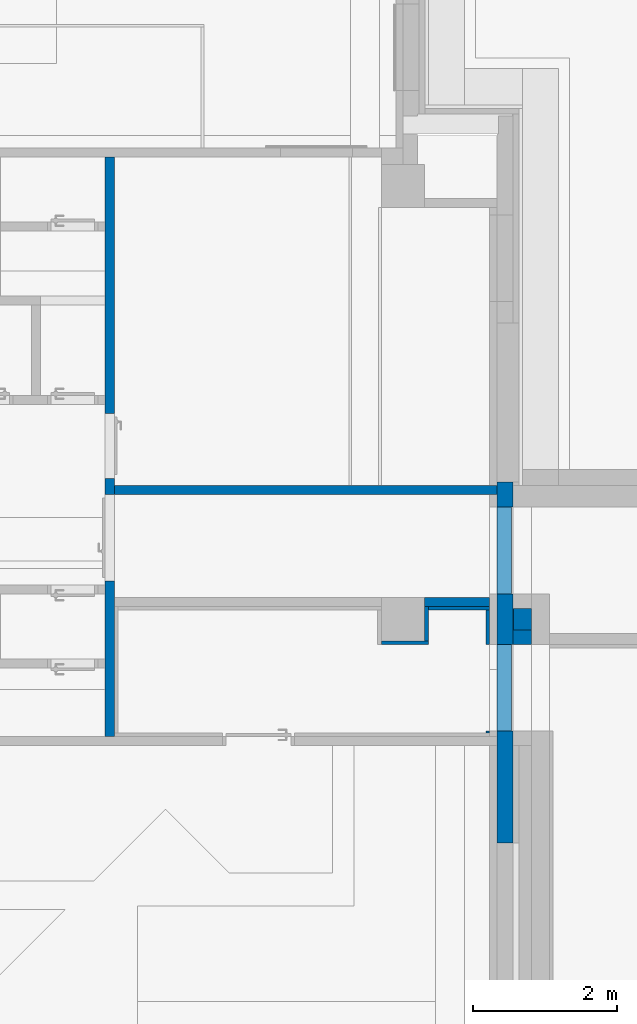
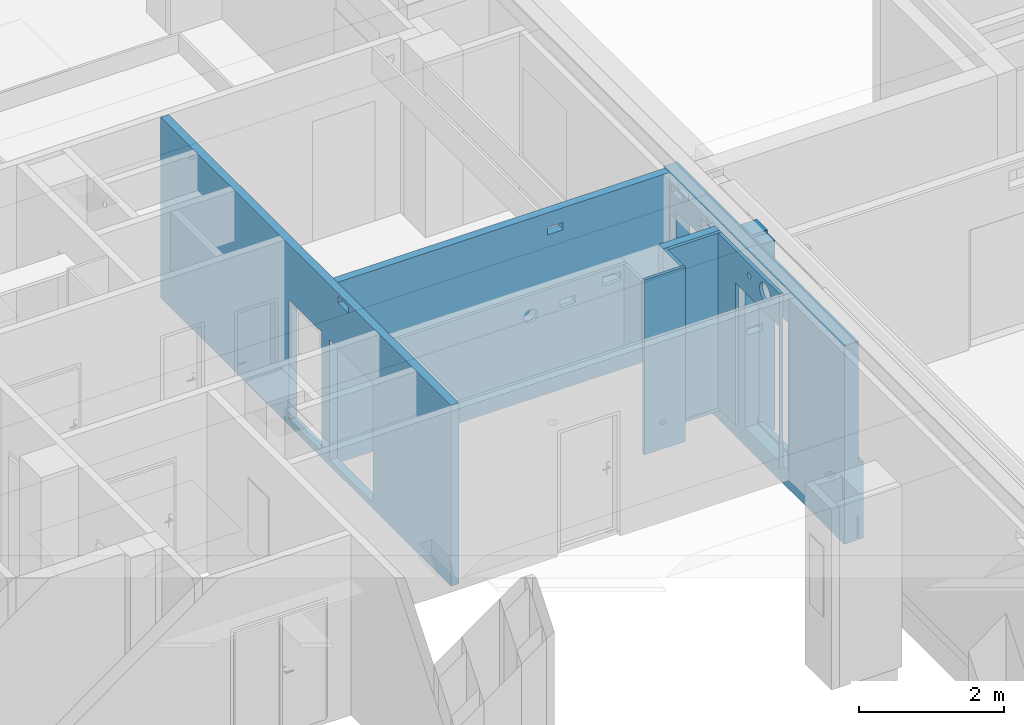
# One storey, part 35 of 84: 10 walls, 13 openings.
"""IFC4 building model written with IfcOpenShell, lengths in metres."""

from ifc_helpers import new_model, entity, si_unit, converted_unit, derived_unit, frame, frame_2d, origin, origin_with_axes, place, context, subcontext, project, spatial, polyline, rectangle, outline, extrude, clip, bounded_halfspace, material, layer, layer_set, layer_usage, element, save


model = new_model("IFC4")

# Units and contexts
model_context = context("Model", 3, precision=1e-05, world=origin())
body_context = subcontext(model_context, "Body", "Model", "MODEL_VIEW")
ifc_project = project(units=[si_unit("LENGTHUNIT", "METRE"), si_unit("AREAUNIT", "SQUARE_METRE"), si_unit("VOLUMEUNIT", "CUBIC_METRE"), si_unit("MASSUNIT", "GRAM", prefix="KILO"), converted_unit("PLANEANGLEUNIT", "DEGREE", entity("IfcPlaneAngleMeasure", 0.0174532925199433), si_unit("PLANEANGLEUNIT", "RADIAN"), dimensions=[0, 0, 0, 0, 0, 0, 0]), derived_unit("THERMALTRANSMITTANCEUNIT", [(si_unit("POWERUNIT", "WATT"), 1), (si_unit("THERMODYNAMICTEMPERATUREUNIT", "KELVIN"), -1), (si_unit("LENGTHUNIT", "METRE"), -2)]), derived_unit("VOLUMETRICFLOWRATEUNIT", [(si_unit("LENGTHUNIT", "METRE"), 3), (converted_unit("TIMEUNIT", "hour", entity("IfcTimeMeasure", 3600.0), si_unit("TIMEUNIT", "SECOND"), dimensions=[0, 0, 1, 0, 0, 0, 0]), -1), (si_unit("LENGTHUNIT", "METRE"), -1)])], contexts=[model_context])

# Site, building, storey
site_placement = place(None, origin())
site = spatial("IfcSite", under=ifc_project, at=site_placement, Name="3. ASŘ", CompositionType="ELEMENT")
building_placement = place(site_placement, origin())
building = spatial("IfcBuilding", under=site, at=building_placement, Name="Pavilon C", CompositionType="ELEMENT")
storey_placement = place(building_placement, frame((0.0, 0.0, -3.3)))
storey = spatial("IfcBuildingStorey", under=building, at=storey_placement, Name="Půdorys 1.PP", CompositionType="ELEMENT", Elevation=-3.3)

# Wall, opening
ifc_material_1 = material(Name="ZDIVO Z CDm")
ifc_layer_1 = layer(ifc_material_1, 0.125)
ifc_layer_set_1 = layer_set([ifc_layer_1])
ifc_layer_usage_1 = layer_usage(ifc_layer_set_1, "AXIS2", "POSITIVE", 0.0)
wall_1_placement = place(storey_placement, frame((51.25, 15.05, -0.1), z_axis=(0.0, 0.0, 1.0), x_axis=(-1.0, 0.0, 0.0)))
wall_1 = element("IfcWall", 1, at=wall_1_placement, inside=storey, material=ifc_layer_usage_1, Name="ZDIVO Z CDm", context=body_context, shape_type="SweptSolid", body=[
    extrude(rectangle(XDim=5.3, YDim=0.125, at=frame_2d((2.65, 0.0625), x_axis=(1.0, 0.0))), origin_with_axes(), (0.0, 0.0, 1.0), 3.05),
])
opening_1_placement = place(wall_1_placement, frame((1.7, 0.0, 2.68), z_axis=(0.0, 1.0, 0.0), x_axis=(0.0, 0.0, 1.0)))
element("IfcOpeningElement", 2, at=opening_1_placement, cuts=wall_1, Name="UT", ObjectType="Opening", context=body_context, shape_type="SweptSolid", body=[
    extrude(outline(polyline([(0.0, 0.25), (0.12, 0.25), (0.12, 0.0), (0.0, 0.0), (0.0, 0.25)])), origin_with_axes(), (0.0, 0.0, 1.0), 0.125),
])

# Wall, openings
ifc_material_2 = material(Name="ZDIVO Z CDm")
ifc_layer_2 = layer(ifc_material_2, 0.125)
ifc_layer_set_2 = layer_set([ifc_layer_2])
ifc_layer_usage_2 = layer_usage(ifc_layer_set_2, "AXIS2", "POSITIVE", 0.0)
wall_2_placement = place(storey_placement, frame((45.95, 11.575, -0.1), z_axis=(0.0, 0.0, 1.0), x_axis=(0.0, 1.0, 0.0)))
wall_2 = element("IfcWall", 3, at=wall_2_placement, inside=storey, material=ifc_layer_usage_2, Name="ZDIVO Z CDm", context=body_context, shape_type="SweptSolid", body=[
    extrude(rectangle(XDim=8.025, YDim=0.125, at=frame_2d((4.0125, 0.0625), x_axis=(1.0, 0.0))), origin_with_axes(), (0.0, 0.0, 1.0), 3.05),
])
opening_2_placement = place(wall_2_placement, frame((2.825, 0.0, 2.89), z_axis=(0.0, 1.0, 0.0), x_axis=(0.0, 0.0, 1.0)))
element("IfcOpeningElement", 4, at=opening_2_placement, cuts=wall_2, Name="ZTI", ObjectType="Opening", context=body_context, shape_type="SweptSolid", body=[
    extrude(outline(polyline([(0.0, 0.3), (0.11, 0.3), (0.11, 0.0), (0.0, 0.0), (0.0, 0.3)])), origin_with_axes(), (0.0, 0.0, 1.0), 0.125),
])
opening_3_placement = place(wall_2_placement, frame((3.57499999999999, 0.0, 0.1), z_axis=(0.0, 1.0, 0.0), x_axis=(0.0, 0.0, 1.0)))
element("IfcOpeningElement", 5, at=opening_3_placement, cuts=wall_2, Name="Dveřní otvor", ObjectType="Opening", context=body_context, shape_type="SweptSolid", body=[
    extrude(outline(polyline([(0.0, 0.9), (2.02, 0.9), (2.02, 0.0), (0.0, 0.0), (0.0, 0.9)])), origin_with_axes(), (0.0, 0.0, 1.0), 0.125),
])
opening_4_placement = place(wall_2_placement, frame((2.15, 0.0, 0.1), z_axis=(0.0, 1.0, 0.0), x_axis=(0.0, 0.0, 1.0)))
element("IfcOpeningElement", 6, at=opening_4_placement, cuts=wall_2, Name="Dveřní otvor", ObjectType="Opening", context=body_context, shape_type="SweptSolid", body=[
    extrude(outline(polyline([(0.0, 1.2), (2.02, 1.2), (2.02, 0.0), (0.0, 0.0), (0.0, 1.2)])), origin_with_axes(), (0.0, 0.0, 1.0), 0.125),
])

ifc_material_3 = material(Name="ZELEZOBETONOVÁ KCE")
ifc_layer_3 = layer(ifc_material_3, 0.2)
ifc_material_4 = material(Name="LIGNOPOR")
ifc_layer_4 = layer(ifc_material_4, 0.025)
ifc_material_5 = material(Name="PÓROBETONOVÉ ZDIVO")
ifc_layer_5 = layer(ifc_material_5, 0.08)
ifc_layer_set_3 = layer_set([ifc_layer_3, ifc_layer_4, ifc_layer_5])
ifc_layer_usage_3 = layer_usage(ifc_layer_set_3, "AXIS2", "POSITIVE", 0.0)
wall_3_placement = place(storey_placement, frame((51.25, 15.1, -0.4), z_axis=(0.0, 0.0, 1.0), x_axis=(0.0, -1.0, 0.0)))
wall_3 = element("IfcWall", 7, at=wall_3_placement, inside=storey, material=ifc_layer_usage_3, Name="ZELEZOBETONOVÁ KCE", context=body_context, shape_type="Clipping", body=[
    clip(clip(clip(clip(clip(clip(clip(clip(extrude(rectangle(XDim=4.99999999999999, YDim=0.305, at=frame_2d((2.5, 0.1525), x_axis=(1.0, 0.0))), origin_with_axes(), (0.0, 0.0, 1.0), 3.35), bounded_halfspace(frame((2.12999999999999, 0.22, 0.4), z_axis=(0.0, 0.0, 1.0), x_axis=(-1.0, 0.0, 0.0)), True, origin_with_axes(), polyline([(3.65, 0.225000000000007), (3.45, 0.225000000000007), (2.25, 0.225000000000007), (1.54999999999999, 0.225000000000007), (0.349999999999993, 0.225000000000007), (0.0499999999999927, 0.225000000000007), (0.0, 0.225000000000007), (0.0, 0.2), (4.99999999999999, 0.2), (4.99999999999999, 0.225000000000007), (3.65, 0.225000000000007)]))), bounded_halfspace(frame((3.55, 0.265000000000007, 0.3), z_axis=(0.0, 0.0, -1.0), x_axis=(-1.0, 0.0, 0.0)), True, origin_with_axes(), polyline([(3.65, 0.305000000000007), (3.45, 0.305000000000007), (3.45, 0.225000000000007), (3.65, 0.225000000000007), (3.65, 0.305000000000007)]))), bounded_halfspace(frame((1.9, 0.265000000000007, 0.3), z_axis=(0.0, 0.0, -1.0), x_axis=(0.0, -1.0, 0.0)), True, origin_with_axes(), polyline([(1.54999999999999, 0.305000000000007), (1.54999999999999, 0.225000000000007), (2.25, 0.225000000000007), (2.25, 0.305000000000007), (1.54999999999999, 0.305000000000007)]))), bounded_halfspace(frame((0.199999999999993, 0.265000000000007, 0.3), z_axis=(0.0, 0.0, -1.0), x_axis=(1.0, 0.0, 0.0)), True, origin_with_axes(), polyline([(0.0499999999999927, 0.225000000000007), (0.349999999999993, 0.225000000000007), (0.349999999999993, 0.305000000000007), (0.0499999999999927, 0.305000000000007), (0.0499999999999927, 0.225000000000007)]))), bounded_halfspace(frame((4.325, 0.265000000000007, 1.3), z_axis=(-1.68424944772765e-16, 2.8421709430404e-15, -1.0), x_axis=(0.0, -1.0, 0.0)), True, origin_with_axes(), polyline([(3.65, 0.305000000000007), (3.65, 0.225000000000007), (4.99999999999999, 0.225000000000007), (4.99999999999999, 0.305000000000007), (3.65, 0.305000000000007)]))), bounded_halfspace(frame((2.85, 0.265000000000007, 1.3), z_axis=(0.0, 0.0, -1.0), x_axis=(0.0, 1.0, 0.0)), True, origin_with_axes(), polyline([(3.45, 0.225000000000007), (3.45, 0.305000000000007), (2.25, 0.305000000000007), (2.25, 0.225000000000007), (3.45, 0.225000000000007)]))), bounded_halfspace(frame((0.0249999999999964, 0.265000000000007, 1.3), z_axis=(0.0, 0.0, -1.0), x_axis=(0.0, 1.0, 0.0)), True, origin_with_axes(), polyline([(0.0499999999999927, 0.225000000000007), (0.0499999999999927, 0.305000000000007), (0.0, 0.305000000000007), (0.0, 0.225000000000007), (0.0499999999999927, 0.225000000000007)]))), bounded_halfspace(frame((0.949999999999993, 0.265000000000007, 1.3), z_axis=(0.0, 0.0, -1.0), x_axis=(0.0, 1.0, 0.0)), True, origin_with_axes(), polyline([(1.54999999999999, 0.225000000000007), (1.54999999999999, 0.305000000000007), (0.349999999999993, 0.305000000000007), (0.349999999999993, 0.225000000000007), (1.54999999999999, 0.225000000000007)]))),
])
opening_5_placement = place(wall_3_placement, frame((3.45, 0.2, 0.3), z_axis=(0.0, -1.0, 0.0), x_axis=(0.0, 0.0, 1.0)))
element("IfcOpeningElement", 8, at=opening_5_placement, cuts=wall_3, Name="Dveřní otvor", ObjectType="Opening", context=body_context, shape_type="SweptSolid", body=[
    extrude(outline(polyline([(0.0, 1.2), (2.5, 1.2), (2.5, 0.0), (0.0, 0.0), (0.0, 1.2)])), origin_with_axes(), (0.0, 0.0, 1.0), 0.2),
    extrude(outline(polyline([(0.0, 1.2), (2.5, 1.2), (2.5, 0.0), (0.0, 0.0), (0.0, 1.2)])), frame((0.0, 0.0, -0.025), z_axis=(0.0, 0.0, 1.0), x_axis=(1.0, 0.0, 0.0)), (0.0, 0.0, 1.0), 0.025),
    extrude(outline(polyline([(0.0, 1.2), (2.5, 1.2), (2.5, 0.0), (0.0, 0.0), (0.0, 1.2)])), frame((0.0, 0.0, -0.105), z_axis=(0.0, 0.0, 1.0), x_axis=(1.0, 0.0, 0.0)), (0.0, 0.0, 1.0), 0.08),
])
opening_6_placement = place(wall_3_placement, frame((2.91615451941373, 0.0, 2.98), z_axis=(0.0, 1.0, 0.0), x_axis=(0.0, 0.0, 1.0)))
element("IfcOpeningElement", 9, at=opening_6_placement, cuts=wall_3, Name="Prostup stěnou", ObjectType="Opening", context=body_context, shape_type="SweptSolid", body=[
    extrude(outline(polyline([(0.149999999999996, 0.0), (0.134320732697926, 0.000821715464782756), (0.118813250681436, 0.00327785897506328), (0.103647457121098, 0.00734152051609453), (0.0889895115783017, 0.0129681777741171), (0.0750000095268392, 0.0200961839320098), (0.0618322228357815, 0.0286474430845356), (0.0496304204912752, 0.0385282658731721), (0.0385282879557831, 0.0496303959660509), (0.0286474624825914, 0.0618321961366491), (0.0200962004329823, 0.0749999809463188), (0.0129681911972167, 0.0889894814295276), (0.00734153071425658, 0.103647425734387), (0.00327786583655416, 0.118813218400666), (0.00082171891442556, 0.134320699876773), (0.0, 0.149999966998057), (0.000821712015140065, 0.165679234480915), (0.00327785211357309, 0.181186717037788), (0.00734151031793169, 0.196352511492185), (0.0129681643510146, 0.211010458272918), (0.0200961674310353, 0.224999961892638), (0.0286474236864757, 0.238167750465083), (0.0385282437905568, 0.250369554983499), (0.0496303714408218, 0.261471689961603), (0.0618321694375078, 0.271352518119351), (0.0749999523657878, 0.279903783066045), (0.0889894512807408, 0.287031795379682), (0.10364739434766, 0.292658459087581), (0.11881318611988, 0.296722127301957), (0.134320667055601, 0.299178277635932), (0.149999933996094, 0.3), (0.165679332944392, 0.299178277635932), (0.181186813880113, 0.296722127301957), (0.196352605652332, 0.292658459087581), (0.211010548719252, 0.287031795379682), (0.225000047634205, 0.279903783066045), (0.238167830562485, 0.271352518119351), (0.250369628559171, 0.261471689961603), (0.261471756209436, 0.250369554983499), (0.271352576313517, 0.238167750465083), (0.279903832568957, 0.224999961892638), (0.287031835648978, 0.211010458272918), (0.292658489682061, 0.196352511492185), (0.29672214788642, 0.181186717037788), (0.299178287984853, 0.165679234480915), (0.299999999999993, 0.149999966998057), (0.299178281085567, 0.134320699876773), (0.296722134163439, 0.118813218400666), (0.292658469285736, 0.103647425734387), (0.287031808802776, 0.0889894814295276), (0.27990379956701, 0.0749999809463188), (0.271352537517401, 0.0618321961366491), (0.26147171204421, 0.0496303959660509), (0.250369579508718, 0.0385282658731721), (0.238167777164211, 0.0286474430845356), (0.224999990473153, 0.0200961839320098), (0.211010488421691, 0.0129681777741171), (0.196352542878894, 0.00734152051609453), (0.181186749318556, 0.00327785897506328), (0.165679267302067, 0.000821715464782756), (0.149999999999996, 0.0)])), origin_with_axes(), (0.0, 0.0, 1.0), 0.2),
    extrude(outline(polyline([(0.149999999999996, 0.0), (0.134320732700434, 0.000821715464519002), (0.118813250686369, 0.00327785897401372), (0.103647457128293, 0.00734152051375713), (0.0889895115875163, 0.0129681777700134), (0.0750000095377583, 0.0200961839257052), (0.0618322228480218, 0.0286474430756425), (0.0496304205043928, 0.0385282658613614), (0.0385282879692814, 0.0496303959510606), (0.0286474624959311, 0.0618321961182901), (0.0200962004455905, 0.0749999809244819), (0.0129681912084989, 0.0889894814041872), (0.00734153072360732, 0.103647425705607), (0.0032778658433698, 0.118813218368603), (0.000821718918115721, 0.134320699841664), (0.0, 0.149999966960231), (0.000821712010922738, 0.16567923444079), (0.00327785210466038, 0.181186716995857), (0.00734151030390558, 0.196352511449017), (0.0129681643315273, 0.211010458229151), (0.020096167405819, 0.22499996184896), (0.0286474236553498, 0.238167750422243), (0.0385282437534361, 0.250369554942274), (0.0496303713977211, 0.261471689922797), (0.0618321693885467, 0.271352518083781), (0.0749999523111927, 0.279903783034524), (0.0889894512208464, 0.287031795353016), (0.103647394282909, 0.292658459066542), (0.118813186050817, 0.296722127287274), (0.134320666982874, 0.299178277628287), (0.149999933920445, 0.3), (0.165679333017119, 0.299178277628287), (0.181186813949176, 0.296722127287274), (0.196352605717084, 0.292658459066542), (0.211010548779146, 0.287031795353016), (0.2250000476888, 0.279903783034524), (0.238167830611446, 0.271352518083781), (0.250369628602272, 0.261471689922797), (0.261471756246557, 0.250369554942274), (0.271352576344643, 0.238167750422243), (0.279903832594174, 0.22499996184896), (0.287031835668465, 0.211010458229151), (0.292658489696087, 0.196352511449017), (0.296722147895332, 0.181186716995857), (0.29917828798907, 0.16567923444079), (0.299999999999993, 0.149999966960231), (0.299178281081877, 0.134320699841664), (0.296722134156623, 0.118813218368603), (0.292658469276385, 0.103647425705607), (0.287031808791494, 0.0889894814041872), (0.279903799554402, 0.0749999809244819), (0.271352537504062, 0.0618321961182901), (0.261471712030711, 0.0496303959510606), (0.2503695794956, 0.0385282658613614), (0.238167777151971, 0.0286474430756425), (0.224999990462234, 0.0200961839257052), (0.211010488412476, 0.0129681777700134), (0.1963525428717, 0.00734152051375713), (0.181186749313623, 0.00327785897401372), (0.165679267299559, 0.000821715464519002), (0.149999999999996, 0.0)])), frame((0.0, 0.0, 0.2), z_axis=(0.0, 0.0, 1.0), x_axis=(1.0, 0.0, 0.0)), (0.0, 0.0, 1.0), 0.025),
])
opening_7_placement = place(wall_3_placement, frame((2.58086786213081, 0.0, 3.1), z_axis=(0.0, 1.0, 0.0), x_axis=(0.0, 0.0, 1.0)))
element("IfcOpeningElement", 10, at=opening_7_placement, cuts=wall_3, Name="Prostup stěnou", ObjectType="Opening", context=body_context, shape_type="SweptSolid", body=[
    extrude(outline(polyline([(0.0499999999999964, 0.0), (0.0447735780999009, 0.000273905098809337), (0.0396044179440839, 0.00109261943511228), (0.0345491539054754, 0.00244717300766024), (0.0296631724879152, 0.00432272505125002), (0.0250000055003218, 0.00669872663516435), (0.0206107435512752, 0.00954914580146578), (0.0165434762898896, 0.0128427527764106), (0.0128427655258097, 0.0165434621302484), (0.00954915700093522, 0.0206107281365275), (0.00669873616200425, 0.0249999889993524), (0.00432273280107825, 0.0296631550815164), (0.00244717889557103, 0.034549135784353), (0.00109262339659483, 0.039604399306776), (0.000273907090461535, 0.0447735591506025), (0.0, 0.0499999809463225), (0.000273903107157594, 0.0552264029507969), (0.00109261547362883, 0.0603955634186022), (0.00244716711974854, 0.0654508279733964), (0.0043227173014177, 0.0703368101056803), (0.00669871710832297, 0.0749999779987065), (0.00954913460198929, 0.079389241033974), (0.0128427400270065, 0.0834565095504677), (0.0165434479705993, 0.0871572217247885), (0.0206107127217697, 0.0904508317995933), (0.0249999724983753, 0.0933012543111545), (0.0296631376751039, 0.0956772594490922), (0.0345491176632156, 0.0975528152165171), (0.0396043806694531, 0.098907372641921), (0.0447735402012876, 0.0997260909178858), (0.0499999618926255, 0.1), (0.0552264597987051, 0.0997260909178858), (0.0603956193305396, 0.098907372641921), (0.0654508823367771, 0.0975528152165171), (0.0703368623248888, 0.0956772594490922), (0.0750000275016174, 0.0933012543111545), (0.079389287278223, 0.0904508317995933), (0.0834565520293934, 0.0871572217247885), (0.0871572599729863, 0.0834565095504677), (0.0904508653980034, 0.079389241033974), (0.0933012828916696, 0.0749999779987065), (0.095677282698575, 0.0703368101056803), (0.0975528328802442, 0.0654508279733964), (0.0989073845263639, 0.0603955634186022), (0.0997260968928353, 0.0552264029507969), (0.0999999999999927, 0.0499999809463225), (0.0997260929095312, 0.0447735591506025), (0.0989073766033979, 0.039604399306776), (0.0975528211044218, 0.034549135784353), (0.0956772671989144, 0.0296631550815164), (0.0933012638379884, 0.0249999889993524), (0.0904508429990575, 0.0206107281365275), (0.087157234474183, 0.0165434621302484), (0.0834565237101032, 0.0128427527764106), (0.0793892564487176, 0.00954914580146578), (0.0749999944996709, 0.00669872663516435), (0.0703368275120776, 0.00432272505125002), (0.0654508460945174, 0.00244717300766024), (0.0603955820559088, 0.00109261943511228), (0.0552264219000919, 0.000273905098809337), (0.0499999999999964, 0.0)])), origin_with_axes(), (0.0, 0.0, 1.0), 0.2),
    extrude(outline(polyline([(0.0499999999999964, 0.0), (0.0447735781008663, 0.000273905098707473), (0.039604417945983, 0.00109261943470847), (0.0345491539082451, 0.00244717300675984), (0.0296631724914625, 0.00432272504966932), (0.0250000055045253, 0.00669872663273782), (0.0206107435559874, 0.00954914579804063), (0.0165434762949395, 0.0128427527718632), (0.0128427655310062, 0.0165434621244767), (0.00954915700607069, 0.0206107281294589), (0.00669873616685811, 0.0249999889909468), (0.00432273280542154, 0.0296631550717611), (0.00244717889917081, 0.0345491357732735), (0.00109262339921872, 0.0396043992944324), (0.000273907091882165, 0.0447735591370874), (0.0, 0.0499999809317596), (0.000273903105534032, 0.0552264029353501), (0.00109261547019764, 0.0603955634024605), (0.00244716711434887, 0.0654508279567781), (0.00432271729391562, 0.070336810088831), (0.00669871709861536, 0.0749999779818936), (0.0095491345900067, 0.0793892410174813), (0.012842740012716, 0.0834565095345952), (0.0165434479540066, 0.0871572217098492), (0.020610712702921, 0.0904508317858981), (0.0249999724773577, 0.0933012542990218), (0.0296631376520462, 0.0956772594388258), (0.0345491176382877, 0.0975528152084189), (0.0396043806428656, 0.0989073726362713), (0.0447735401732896, 0.0997260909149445), (0.0499999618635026, 0.1), (0.0552264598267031, 0.0997260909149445), (0.0603956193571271, 0.0989073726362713), (0.065450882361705, 0.0975528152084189), (0.0703368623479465, 0.0956772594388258), (0.075000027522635, 0.0933012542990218), (0.0793892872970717, 0.0904508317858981), (0.0834565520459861, 0.0871572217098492), (0.0871572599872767, 0.0834565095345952), (0.090450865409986, 0.0793892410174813), (0.0933012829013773, 0.0749999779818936), (0.095677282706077, 0.070336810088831), (0.0975528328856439, 0.0654508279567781), (0.0989073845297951, 0.0603955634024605), (0.0997260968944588, 0.0552264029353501), (0.0999999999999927, 0.0499999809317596), (0.0997260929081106, 0.0447735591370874), (0.0989073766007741, 0.0396043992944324), (0.0975528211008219, 0.0345491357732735), (0.0956772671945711, 0.0296631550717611), (0.0933012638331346, 0.0249999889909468), (0.090450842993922, 0.0206107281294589), (0.0871572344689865, 0.0165434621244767), (0.0834565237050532, 0.0128427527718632), (0.0793892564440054, 0.00954914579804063), (0.0749999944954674, 0.00669872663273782), (0.0703368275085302, 0.00432272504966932), (0.0654508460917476, 0.00244717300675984), (0.0603955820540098, 0.00109261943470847), (0.0552264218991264, 0.000273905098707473), (0.0499999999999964, 0.0)])), frame((0.0, 0.0, 0.2), z_axis=(0.0, 0.0, 1.0), x_axis=(1.0, 0.0, 0.0)), (0.0, 0.0, 1.0), 0.025),
])
opening_8_placement = place(wall_3_placement, frame((1.2183085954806, 0.0, 3.1), z_axis=(0.0, 1.0, 0.0), x_axis=(0.0, 0.0, 1.0)))
element("IfcOpeningElement", 11, at=opening_8_placement, cuts=wall_3, Name="Prostup stěnou", ObjectType="Opening", context=body_context, shape_type="SweptSolid", body=[
    extrude(outline(polyline([(0.0, 0.3), (0.15, 0.3), (0.15, 0.0), (0.0, 0.0), (0.0, 0.3)])), origin_with_axes(), (0.0, 0.0, 1.0), 0.2),
    extrude(outline(polyline([(0.0, 0.3), (0.15, 0.3), (0.15, 0.0), (0.0, 0.0), (0.0, 0.3)])), frame((0.0, 0.0, 0.2), z_axis=(0.0, 0.0, 1.0), x_axis=(1.0, 0.0, 0.0)), (0.0, 0.0, 1.0), 0.025),
])
opening_9_placement = place(wall_3_placement, frame((0.400000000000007, 0.0, 3.19), z_axis=(0.0, 1.0, 0.0), x_axis=(0.0, 0.0, 1.0)))
element("IfcOpeningElement", 12, at=opening_9_placement, cuts=wall_3, Name="ZTI", ObjectType="Opening", context=body_context, shape_type="SweptSolid", body=[
    extrude(outline(polyline([(0.0, 0.3), (0.11, 0.3), (0.11, 0.0), (0.0, 0.0), (0.0, 0.3)])), origin_with_axes(), (0.0, 0.0, 1.0), 0.2),
    extrude(outline(polyline([(0.0, 0.3), (0.11, 0.3), (0.11, 0.0), (0.0, 0.0), (0.0, 0.3)])), frame((0.0, 0.0, 0.2), z_axis=(0.0, 0.0, 1.0), x_axis=(1.0, 0.0, 0.0)), (0.0, 0.0, 1.0), 0.025),
])
opening_10_placement = place(wall_3_placement, frame((1.54999999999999, 0.2, 0.3), z_axis=(0.0, -1.0, 0.0), x_axis=(0.0, 0.0, 1.0)))
element("IfcOpeningElement", 13, at=opening_10_placement, cuts=wall_3, Name="Dveřní otvor", ObjectType="Opening", context=body_context, shape_type="SweptSolid", body=[
    extrude(outline(polyline([(0.0, 1.2), (2.5, 1.2), (2.5, 0.0), (0.0, 0.0), (0.0, 1.2)])), origin_with_axes(), (0.0, 0.0, 1.0), 0.2),
    extrude(outline(polyline([(0.0, 1.2), (2.5, 1.2), (2.5, 0.0), (0.0, 0.0), (0.0, 1.2)])), frame((0.0, 0.0, -0.025), z_axis=(0.0, 0.0, 1.0), x_axis=(1.0, 0.0, 0.0)), (0.0, 0.0, 1.0), 0.025),
    extrude(outline(polyline([(0.0, 1.2), (2.5, 1.2), (2.5, 0.0), (0.0, 0.0), (0.0, 1.2)])), frame((0.0, 0.0, -0.105), z_axis=(0.0, 0.0, 1.0), x_axis=(1.0, 0.0, 0.0)), (0.0, 0.0, 1.0), 0.08),
])

# Walls
ifc_material_6 = material(Name="AKUSTICKÝ OBKLAD")
ifc_layer_6 = layer(ifc_material_6, 0.05)
ifc_layer_set_4 = layer_set([ifc_layer_6])
ifc_layer_usage_4 = layer_usage(ifc_layer_set_4, "AXIS2", "POSITIVE", 0.0)
wall_4_placement = place(storey_placement, frame((50.3, 12.9, 0.0), z_axis=(0.0, 0.0, 1.0), x_axis=(-1.0, 0.0, 0.0)))
element("IfcWall", 14, at=wall_4_placement, inside=storey, material=ifc_layer_usage_4, Name="AKUSTICKÝ OBKLAD", context=body_context, shape_type="SweptSolid", body=[
    extrude(rectangle(XDim=0.65, YDim=0.05, at=frame_2d((0.325, 0.025), x_axis=(1.0, 0.0))), origin_with_axes(), (0.0, 0.0, 1.0), 2.95),
])
ifc_material_7 = material(Name="AKUSTICKÝ OBKLAD")
ifc_layer_7 = layer(ifc_material_7, 0.05)
ifc_layer_set_5 = layer_set([ifc_layer_7])
ifc_layer_usage_5 = layer_usage(ifc_layer_set_5, "AXIS2", "POSITIVE", 0.0)
wall_5_placement = place(storey_placement, frame((50.25, 13.375, 0.0), z_axis=(0.0, 0.0, 1.0), x_axis=(0.0, -1.0, 0.0)))
element("IfcWall", 15, at=wall_5_placement, inside=storey, material=ifc_layer_usage_5, Name="AKUSTICKÝ OBKLAD", context=body_context, shape_type="SweptSolid", body=[
    extrude(rectangle(XDim=0.475, YDim=0.05, at=frame_2d((0.2375, 0.025), x_axis=(1.0, 0.0))), origin_with_axes(), (0.0, 0.0, 1.0), 2.95),
])
ifc_material_8 = material(Name="AKUSTICKÝ OBKLAD")
ifc_layer_8 = layer(ifc_material_8, 0.05)
ifc_layer_set_6 = layer_set([ifc_layer_8])
ifc_layer_usage_6 = layer_usage(ifc_layer_set_6, "AXIS2", "POSITIVE", 0.0)
wall_6_placement = place(storey_placement, frame((51.15, 13.375, 0.0), z_axis=(0.0, 0.0, 1.0), x_axis=(-1.0, 0.0, 0.0)))
element("IfcWall", 16, at=wall_6_placement, inside=storey, material=ifc_layer_usage_6, Name="AKUSTICKÝ OBKLAD", context=body_context, shape_type="SweptSolid", body=[
    extrude(rectangle(XDim=0.85, YDim=0.05, at=frame_2d((0.425, 0.025), x_axis=(1.0, 0.0))), origin_with_axes(), (0.0, 0.0, 1.0), 2.95),
])

# Wall, openings
ifc_material_9 = material(Name="AKUSTICKÝ OBKLAD")
ifc_layer_9 = layer(ifc_material_9, 0.05)
ifc_layer_set_7 = layer_set([ifc_layer_9])
ifc_layer_usage_7 = layer_usage(ifc_layer_set_7, "AXIS2", "POSITIVE", 0.0)
wall_7_placement = place(storey_placement, frame((51.15, 11.625, 0.0), z_axis=(0.0, 0.0, 1.0), x_axis=(0.0, 1.0, 0.0)))
wall_7 = element("IfcWall", 17, at=wall_7_placement, inside=storey, material=ifc_layer_usage_7, Name="AKUSTICKÝ OBKLAD", context=body_context, shape_type="SweptSolid", body=[
    extrude(rectangle(XDim=1.7, YDim=0.05, at=frame_2d((0.85, 0.025), x_axis=(1.0, 0.0))), origin_with_axes(), (0.0, 0.0, 1.0), 2.95),
])
opening_11_placement = place(wall_7_placement, frame((0.025, 0.0, 0.0), z_axis=(0.0, 1.0, 0.0), x_axis=(0.0, 0.0, 1.0)))
element("IfcOpeningElement", 18, at=opening_11_placement, cuts=wall_7, Name="Dveřní otvor", ObjectType="Opening", context=body_context, shape_type="SweptSolid", body=[
    extrude(outline(polyline([(0.0, 1.2), (2.4, 1.2), (2.4, 0.0), (0.0, 0.0), (0.0, 1.2)])), origin_with_axes(), (0.0, 0.0, 1.0), 0.05),
])
opening_12_placement = place(wall_7_placement, frame((0.89413213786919, 0.05, 2.7), z_axis=(0.0, -1.0, 0.0), x_axis=(0.0, 0.0, 1.0)))
element("IfcOpeningElement", 19, at=opening_12_placement, cuts=wall_7, Name="Prostup stěnou", ObjectType="Opening", context=body_context, shape_type="SweptSolid", body=[
    extrude(outline(polyline([(0.0499999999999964, 0.0), (0.0447735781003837, 0.000273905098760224), (0.0396044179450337, 0.00109261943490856), (0.0345491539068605, 0.00244717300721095), (0.0296631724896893, 0.00432272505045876), (0.025000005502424, 0.0066987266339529), (0.0206107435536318, 0.0095491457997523), (0.0165434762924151, 0.0128427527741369), (0.0128427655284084, 0.0165434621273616), (0.00954915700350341, 0.0206107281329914), (0.00669873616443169, 0.0249999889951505), (0.00432273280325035, 0.0296631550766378), (0.00244717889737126, 0.0345491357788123), (0.001092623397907, 0.0396043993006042), (0.000273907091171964, 0.0447735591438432), (0.0, 0.0499999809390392), (0.000273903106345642, 0.0552264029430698), (0.00109261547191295, 0.0603955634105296), (0.00244716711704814, 0.0654508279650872), (0.00432271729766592, 0.0703368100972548), (0.0066987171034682, 0.0749999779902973), (0.00954913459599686, 0.0793892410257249), (0.0128427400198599, 0.0834565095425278), (0.0165434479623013, 0.0871572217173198), (0.0206107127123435, 0.0904508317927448), (0.0249999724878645, 0.0933012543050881), (0.0296631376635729, 0.0956772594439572), (0.0345491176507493, 0.097552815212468), (0.0396043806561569, 0.0989073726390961), (0.0447735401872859, 0.0997260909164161), (0.0499999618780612, 0.1), (0.0552264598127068, 0.0997260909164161), (0.0603956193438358, 0.0989073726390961), (0.0654508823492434, 0.097552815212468), (0.0703368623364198, 0.0956772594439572), (0.0750000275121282, 0.0933012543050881), (0.0793892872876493, 0.0904508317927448), (0.0834565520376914, 0.0871572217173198), (0.0871572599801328, 0.0834565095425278), (0.0904508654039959, 0.0793892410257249), (0.0933012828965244, 0.0749999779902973), (0.0956772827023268, 0.0703368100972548), (0.0975528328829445, 0.0654508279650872), (0.0989073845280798, 0.0603955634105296), (0.0997260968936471, 0.0552264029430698), (0.0999999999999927, 0.0499999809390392), (0.0997260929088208, 0.0447735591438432), (0.0989073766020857, 0.0396043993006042), (0.0975528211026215, 0.0345491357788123), (0.0956772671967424, 0.0296631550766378), (0.093301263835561, 0.0249999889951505), (0.0904508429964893, 0.0206107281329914), (0.0871572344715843, 0.0165434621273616), (0.0834565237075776, 0.0128427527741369), (0.079389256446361, 0.0095491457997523), (0.0749999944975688, 0.0066987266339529), (0.0703368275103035, 0.00432272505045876), (0.0654508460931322, 0.00244717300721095), (0.0603955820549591, 0.00109261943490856), (0.055226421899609, 0.000273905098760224), (0.0499999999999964, 0.0)])), origin_with_axes(), (0.0, 0.0, 1.0), 0.05),
])
opening_13_placement = place(wall_7_placement, frame((0.558845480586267, 0.05, 2.58), z_axis=(0.0, -1.0, 0.0), x_axis=(0.0, 0.0, 1.0)))
element("IfcOpeningElement", 20, at=opening_13_placement, cuts=wall_7, Name="Prostup stěnou", ObjectType="Opening", context=body_context, shape_type="SweptSolid", body=[
    extrude(outline(polyline([(0.149999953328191, 0.0), (0.134320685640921, 0.000821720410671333), (0.118813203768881, 0.00327786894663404), (0.103647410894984, 0.00734153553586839), (0.0889894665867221, 0.0129681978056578), (0.0749999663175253, 0.0200962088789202), (0.0618321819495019, 0.028647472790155), (0.0496303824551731, 0.0385283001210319), (0.0385282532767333, 0.049630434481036), (0.0286474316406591, 0.0618322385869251), (0.0200961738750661, 0.0750000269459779), (0.0129681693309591, 0.088989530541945), (0.00734151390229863, 0.103647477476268), (0.00327785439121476, 0.118813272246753), (0.00082171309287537, 0.13432075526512), (0.0, 0.150000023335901), (0.000821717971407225, 0.165679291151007), (0.00327786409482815, 0.181186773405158), (0.00734152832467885, 0.19635256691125), (0.0129681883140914, 0.211010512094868), (0.0200961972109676, 0.225000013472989), (0.0286474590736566, 0.238167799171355), (0.0385282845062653, 0.25036960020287), (0.0496304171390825, 0.261471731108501), (0.0618322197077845, 0.271352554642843), (0.0750000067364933, 0.279903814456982), (0.0889895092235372, 0.287031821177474), (0.103647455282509, 0.292658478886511), (0.118813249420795, 0.296722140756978), (0.134320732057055, 0.299178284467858), (0.149999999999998, 0.3), (0.165679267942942, 0.299178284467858), (0.181186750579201, 0.296722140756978), (0.196352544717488, 0.292658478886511), (0.211010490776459, 0.287031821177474), (0.224999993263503, 0.279903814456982), (0.238167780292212, 0.271352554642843), (0.250369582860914, 0.261471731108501), (0.261471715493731, 0.25036960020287), (0.27135254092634, 0.238167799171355), (0.279903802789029, 0.225000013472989), (0.287031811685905, 0.211010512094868), (0.292658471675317, 0.19635256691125), (0.296722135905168, 0.181186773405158), (0.299178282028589, 0.165679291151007), (0.299999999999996, 0.150000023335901), (0.299178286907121, 0.13432075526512), (0.296722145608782, 0.118813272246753), (0.292658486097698, 0.103647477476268), (0.287031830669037, 0.088989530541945), (0.27990382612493, 0.0750000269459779), (0.271352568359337, 0.0618322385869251), (0.261471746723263, 0.049630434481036), (0.250369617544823, 0.0385283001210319), (0.238167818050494, 0.028647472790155), (0.225000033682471, 0.0200962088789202), (0.211010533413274, 0.0129681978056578), (0.196352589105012, 0.00734153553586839), (0.181186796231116, 0.00327786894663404), (0.165679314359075, 0.000821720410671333), (0.149999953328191, 0.0)])), origin_with_axes(), (0.0, 0.0, 1.0), 0.05),
])

# Walls
ifc_material_10 = material(Name="PERIMETR")
ifc_layer_10 = layer(ifc_material_10, 0.25)
ifc_layer_set_8 = layer_set([ifc_layer_10])
ifc_layer_usage_8 = layer_usage(ifc_layer_set_8, "AXIS2", "POSITIVE", 0.0)
wall_8_placement = place(storey_placement, frame((51.73, 13.05, -0.6), z_axis=(0.0, 0.0, 1.0), x_axis=(0.0, 1.0, 0.0)))
element("IfcWall", 21, at=wall_8_placement, inside=storey, material=ifc_layer_usage_8, Name="PERIMETR", context=body_context, shape_type="SweptSolid", body=[
    extrude(rectangle(XDim=0.300000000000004, YDim=0.25, at=frame_2d((0.150000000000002, 0.125), x_axis=(1.0, 0.0))), origin_with_axes(), (0.0, 0.0, 1.0), 3.55),
])
ifc_material_11 = material(Name="ZELEZOBETONOVÁ KCE")
ifc_layer_11 = layer(ifc_material_11, 0.2)
ifc_layer_set_9 = layer_set([ifc_layer_11])
ifc_layer_usage_9 = layer_usage(ifc_layer_set_9, "AXIS2", "POSITIVE", 0.0)
wall_9_placement = place(storey_placement, frame((51.73, 13.05, -0.3), z_axis=(0.0, 0.0, 1.0), x_axis=(-1.0, 0.0, 0.0)))
element("IfcWall", 22, at=wall_9_placement, inside=storey, material=ifc_layer_usage_9, Name="ZELEZOBETONOVÁ KCE", context=body_context, shape_type="SweptSolid", body=[
    extrude(rectangle(XDim=0.255, YDim=0.2, at=frame_2d((0.1275, 0.1), x_axis=(1.0, 0.0))), origin_with_axes(), (0.0, 0.0, 1.0), 3.2),
])
ifc_material_12 = material(Name="SDK - 1 KCE + DVOJITÉ OPLÁŠTĚNÍ")
ifc_layer_12 = layer(ifc_material_12, 0.125)
ifc_layer_set_10 = layer_set([ifc_layer_12])
ifc_layer_usage_10 = layer_usage(ifc_layer_set_10, "AXIS2", "POSITIVE", 0.0)
wall_10_placement = place(storey_placement, frame((51.15, 13.5, -0.1), z_axis=(0.0, 0.0, 1.0), x_axis=(-1.0, 0.0, 0.0)))
element("IfcWall", 23, at=wall_10_placement, inside=storey, material=ifc_layer_usage_10, Name="SDK - 1 KCE + DVOJITÉ OPLÁŠTĚNÍ", context=body_context, shape_type="SweptSolid", body=[
    extrude(rectangle(XDim=0.9, YDim=0.125, at=frame_2d((0.45, 0.0625), x_axis=(1.0, 0.0))), origin_with_axes(), (0.0, 0.0, 1.0), 3.05),
])

save(model, "model.ifc")
